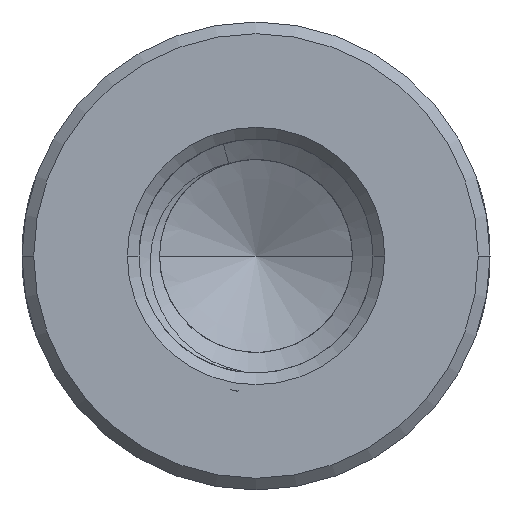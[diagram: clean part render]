
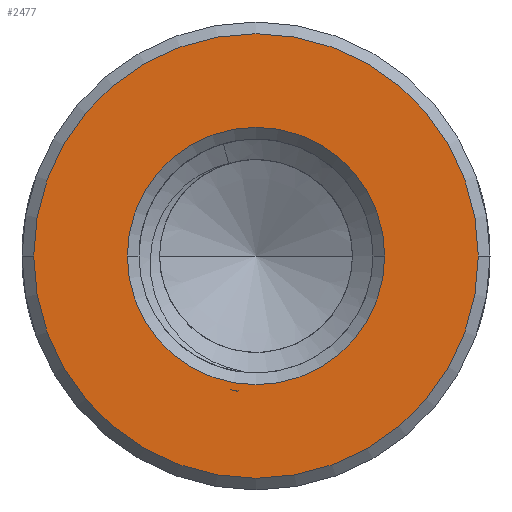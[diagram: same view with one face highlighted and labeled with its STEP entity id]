
A CAD part, front view. The second image highlights one B-rep face of the part: STEP entity #2477.
In plain terms, the highlighted planar face has unit normal (0, -1, 0).
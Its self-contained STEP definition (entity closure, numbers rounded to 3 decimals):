
#1=CARTESIAN_POINT('',(0.,-15.,0.));
#2=DIRECTION('',(0.,-1.,0.));
#3=DIRECTION('',(-1.,0.,0.));
#4=AXIS2_PLACEMENT_3D('',#1,#2,#3);
#6=CARTESIAN_POINT('',(0.,-15.,0.));
#7=DIRECTION('',(0.,-1.,0.));
#8=DIRECTION('',(1.,0.,0.));
#9=AXIS2_PLACEMENT_3D('',#6,#7,#8);
#11=DIRECTION('',(0.132,0.,0.991));
#12=VECTOR('',#11,0.012);
#13=CARTESIAN_POINT('',(-0.463,-15.,-3.469));
#14=LINE('',#13,#12);
#15=CARTESIAN_POINT('',(-0.462,-15.,-3.458));
#16=CARTESIAN_POINT('',(-0.494,-15.,-3.454));
#17=CARTESIAN_POINT('',(-0.558,-15.,-3.445));
#18=CARTESIAN_POINT('',(-0.622,-15.,-3.434));
#19=CARTESIAN_POINT('',(-0.654,-15.,-3.428));
#21=CARTESIAN_POINT('',(-0.654,-15.,-3.428));
#22=CARTESIAN_POINT('',(-0.622,-15.,-3.436));
#23=CARTESIAN_POINT('',(-0.559,-15.,-3.45));
#24=CARTESIAN_POINT('',(-0.495,-15.,-3.463));
#25=CARTESIAN_POINT('',(-0.463,-15.,-3.469));
#27=CARTESIAN_POINT('',(0.,-15.,0.));
#28=DIRECTION('',(0.,1.,0.));
#29=DIRECTION('',(-1.,0.,0.));
#30=AXIS2_PLACEMENT_3D('',#27,#28,#29);
#32=CARTESIAN_POINT('',(0.,-15.,0.));
#33=DIRECTION('',(0.,1.,0.));
#34=DIRECTION('',(1.,0.,0.));
#35=AXIS2_PLACEMENT_3D('',#32,#33,#34);
#2307=CARTESIAN_POINT('',(-5.7,-15.,0.));
#2308=CARTESIAN_POINT('',(5.7,-15.,0.));
#2309=VERTEX_POINT('',#2307);
#2310=VERTEX_POINT('',#2308);
#2401=CARTESIAN_POINT('',(-3.3,-15.,0.));
#2402=CARTESIAN_POINT('',(3.3,-15.,0.));
#2403=VERTEX_POINT('',#2401);
#2404=VERTEX_POINT('',#2402);
#2443=CARTESIAN_POINT('',(-0.463,-15.,-3.469));
#2444=CARTESIAN_POINT('',(-0.462,-15.,-3.458));
#2445=VERTEX_POINT('',#2443);
#2446=VERTEX_POINT('',#2444);
#2447=VERTEX_POINT('',#19);
#2452=CARTESIAN_POINT('',(0.,-15.,0.));
#2453=DIRECTION('',(0.,1.,0.));
#2454=DIRECTION('',(1.,0.,0.));
#2455=AXIS2_PLACEMENT_3D('',#2452,#2453,#2454);
#2456=PLANE('',#2455);
#2458=ORIENTED_EDGE('',*,*,#2457,.F.);
#2460=ORIENTED_EDGE('',*,*,#2459,.F.);
#2461=EDGE_LOOP('',(#2458,#2460));
#2462=FACE_OUTER_BOUND('',#2461,.F.);
#2464=ORIENTED_EDGE('',*,*,#2463,.T.);
#2466=ORIENTED_EDGE('',*,*,#2465,.T.);
#2468=ORIENTED_EDGE('',*,*,#2467,.T.);
#2469=EDGE_LOOP('',(#2464,#2466,#2468));
#2470=FACE_BOUND('',#2469,.F.);
#2472=ORIENTED_EDGE('',*,*,#2471,.F.);
#2474=ORIENTED_EDGE('',*,*,#2473,.F.);
#2475=EDGE_LOOP('',(#2472,#2474));
#2476=FACE_BOUND('',#2475,.F.);
#2477=ADVANCED_FACE('',(#2462,#2470,#2476),#2456,.F.);
#5=CIRCLE('',#4,5.7);
#10=CIRCLE('',#9,5.7);
#20=B_SPLINE_CURVE_WITH_KNOTS('',3,(#15,#16,#17,#18,#19),.UNSPECIFIED.,.F.,.F.,(
4,1,4),(0.,0.5,1.),.UNSPECIFIED.);
#26=B_SPLINE_CURVE_WITH_KNOTS('',3,(#21,#22,#23,#24,#25),.UNSPECIFIED.,.F.,.F.,(
4,1,4),(0.,0.5,1.),.UNSPECIFIED.);
#31=CIRCLE('',#30,3.3);
#36=CIRCLE('',#35,3.3);
#2457=EDGE_CURVE('',#2309,#2310,#5,.T.);
#2459=EDGE_CURVE('',#2310,#2309,#10,.T.);
#2463=EDGE_CURVE('',#2445,#2446,#14,.T.);
#2465=EDGE_CURVE('',#2446,#2447,#20,.T.);
#2467=EDGE_CURVE('',#2447,#2445,#26,.T.);
#2471=EDGE_CURVE('',#2403,#2404,#31,.T.);
#2473=EDGE_CURVE('',#2404,#2403,#36,.T.);
